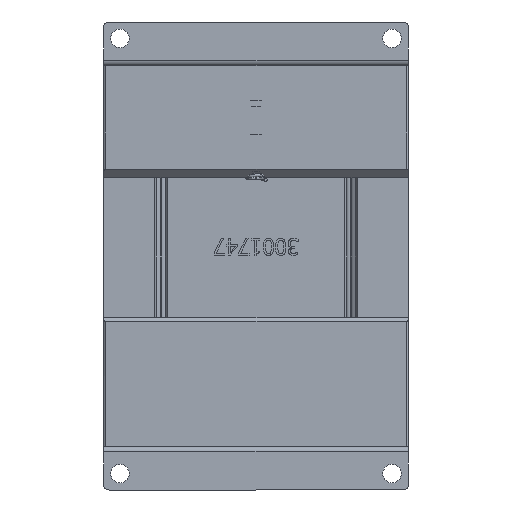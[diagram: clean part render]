
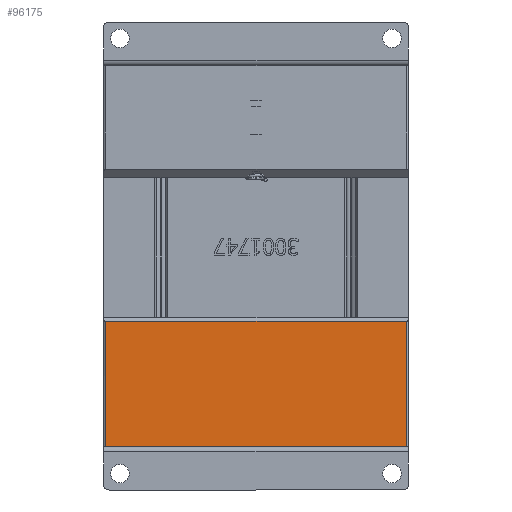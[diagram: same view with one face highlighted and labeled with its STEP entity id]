
A CAD part, front view. The second image highlights one B-rep face of the part: STEP entity #96175.
In plain terms, the highlighted planar face has unit normal (0, -1, 0).
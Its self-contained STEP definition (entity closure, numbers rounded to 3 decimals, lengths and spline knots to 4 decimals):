
#10239=FACE_OUTER_BOUND('',#15665,.T.);
#15665=EDGE_LOOP('',(#84972,#84973,#84974,#84975));
#25845=LINE('',#171945,#36189);
#25962=LINE('',#172739,#36306);
#25973=LINE('',#172769,#36317);
#25981=LINE('',#172783,#36325);
#36189=VECTOR('',#127628,0.3937);
#36306=VECTOR('',#128359,0.3937);
#36317=VECTOR('',#128392,0.3937);
#36325=VECTOR('',#128406,0.3937);
#45113=VERTEX_POINT('',#171942);
#45114=VERTEX_POINT('',#171944);
#45483=VERTEX_POINT('',#172736);
#45484=VERTEX_POINT('',#172738);
#58444=EDGE_CURVE('',#45113,#45114,#25845,.T.);
#58840=EDGE_CURVE('',#45484,#45483,#25962,.T.);
#58857=EDGE_CURVE('',#45484,#45113,#25973,.T.);
#58865=EDGE_CURVE('',#45114,#45483,#25981,.T.);
#84972=ORIENTED_EDGE('',*,*,#58840,.T.);
#84973=ORIENTED_EDGE('',*,*,#58865,.F.);
#84974=ORIENTED_EDGE('',*,*,#58444,.F.);
#84975=ORIENTED_EDGE('',*,*,#58857,.F.);
#91567=PLANE('',#104070);
#96175=ADVANCED_FACE('',(#10239),#91567,.T.);
#104070=AXIS2_PLACEMENT_3D('',#172782,#128404,#128405);
#127628=DIRECTION('',(1.,0.,0.));
#128359=DIRECTION('',(1.,0.,0.));
#128392=DIRECTION('',(0.,0.,1.));
#128404=DIRECTION('center_axis',(0.,-1.,0.));
#128405=DIRECTION('ref_axis',(1.,0.,0.));
#128406=DIRECTION('',(0.,0.,-1.));
#171942=CARTESIAN_POINT('',(0.02,0.,3.5));
#171944=CARTESIAN_POINT('',(2.78,0.,3.5));
#171945=CARTESIAN_POINT('',(0.,0.,3.5));
#172736=CARTESIAN_POINT('',(2.78,0.,2.351));
#172738=CARTESIAN_POINT('',(0.02,0.,2.351));
#172739=CARTESIAN_POINT('',(0.,0.,2.351));
#172769=CARTESIAN_POINT('',(0.02,0.,0.));
#172782=CARTESIAN_POINT('Origin',(0.,0.,0.));
#172783=CARTESIAN_POINT('',(2.78,0.,0.));
